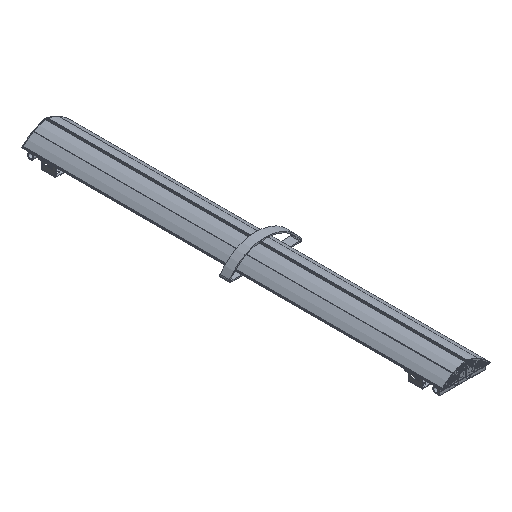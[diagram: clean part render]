
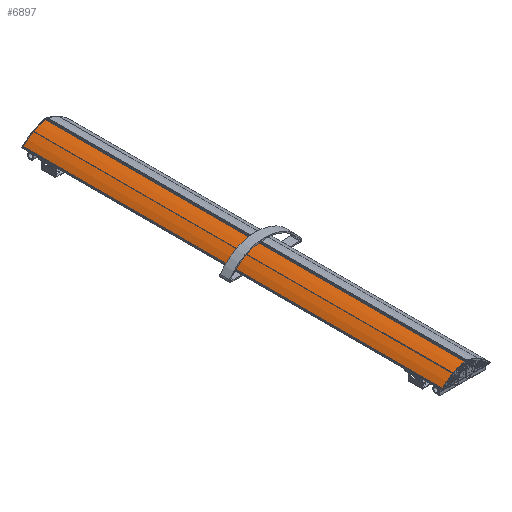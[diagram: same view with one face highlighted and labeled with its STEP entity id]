
A CAD part, isometric view. The second image highlights one B-rep face of the part: STEP entity #6897.
In plain terms, the highlighted cylindrical face has radius 200 mm (diameter 400 mm), a partial arc.
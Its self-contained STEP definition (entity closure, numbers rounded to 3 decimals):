
#10 = VERTEX_POINT ( 'NONE', #30968 ) ;
#114 = VERTEX_POINT ( 'NONE', #31072 ) ;
#145 = VERTEX_POINT ( 'NONE', #31103 ) ;
#453 = VERTEX_POINT ( 'NONE', #31411 ) ;
#1038 = ORIENTED_EDGE ( 'NONE', *, *, #19372, .T. ) ;
#1039 = ORIENTED_EDGE ( 'NONE', *, *, #19371, .F. ) ;
#1040 = ORIENTED_EDGE ( 'NONE', *, *, #19370, .F. ) ;
#1041 = ORIENTED_EDGE ( 'NONE', *, *, #19374, .T. ) ;
#2166 = AXIS2_PLACEMENT_3D ( 'NONE', #3926, #3928, #3929 ) ;
#2167 = AXIS2_PLACEMENT_3D ( 'NONE', #3936, #3938, #3940 ) ;
#3926 = CARTESIAN_POINT ( 'NONE',  ( -61.557, -1795., -150.689 ) ) ;
#3928 = DIRECTION ( 'NONE',  ( 0., -1., 0. ) ) ;
#3929 = DIRECTION ( 'NONE',  ( 0., 0., 1. ) ) ;
#3932 = CARTESIAN_POINT ( 'NONE',  ( -13.398, -1795., 43.426 ) ) ;
#3934 = DIRECTION ( 'NONE',  ( 0., 1., 0. ) ) ;
#3936 = CARTESIAN_POINT ( 'NONE',  ( -61.557, 0., -150.689 ) ) ;
#3938 = DIRECTION ( 'NONE',  ( 0., -1., 0. ) ) ;
#3940 = DIRECTION ( 'NONE',  ( 0., 0., 1. ) ) ;
#3949 = CARTESIAN_POINT ( 'NONE',  ( 82.805, -1795., -12.27 ) ) ;
#3950 = DIRECTION ( 'NONE',  ( 0., 1., 0. ) ) ;
#5839 = FACE_OUTER_BOUND ( 'NONE', #9561, .T. ) ;
#5840 = CYLINDRICAL_SURFACE ( 'NONE', #22207, 200. ) ;
#6897 = ADVANCED_FACE ( 'NONE', ( #5839 ), #5840, .T. ) ;
#8916 = LINE ( 'NONE', #3932, #8918 ) ;
#8917 = CIRCLE ( 'NONE', #2166, 200. ) ;
#8918 = VECTOR ( 'NONE', #3934, 1000. ) ;
#8919 = CIRCLE ( 'NONE', #2167, 200. ) ;
#8920 = LINE ( 'NONE', #3949, #8922 ) ;
#8922 = VECTOR ( 'NONE', #3950, 1000. ) ;
#9561 = EDGE_LOOP ( 'NONE', ( #1038, #1039, #1040, #1041 ) ) ;
#19370 = EDGE_CURVE ( 'NONE', #145, #114, #8917, .T. ) ;
#19371 = EDGE_CURVE ( 'NONE', #114, #10, #8916, .T. ) ;
#19372 = EDGE_CURVE ( 'NONE', #453, #10, #8919, .T. ) ;
#19374 = EDGE_CURVE ( 'NONE', #145, #453, #8920, .T. ) ;
#22207 = AXIS2_PLACEMENT_3D ( 'NONE', #23757, #23758, #23759 ) ;
#23757 = CARTESIAN_POINT ( 'NONE',  ( -61.557, -1795., -150.689 ) ) ;
#23758 = DIRECTION ( 'NONE',  ( 0., 1., 0. ) ) ;
#23759 = DIRECTION ( 'NONE',  ( 0., 0., 1. ) ) ;
#30968 = CARTESIAN_POINT ( 'NONE',  ( -13.398, 0., 43.426 ) ) ;
#31072 = CARTESIAN_POINT ( 'NONE',  ( -13.398, -1795., 43.426 ) ) ;
#31103 = CARTESIAN_POINT ( 'NONE',  ( 82.805, -1795., -12.27 ) ) ;
#31411 = CARTESIAN_POINT ( 'NONE',  ( 82.805, 0., -12.27 ) ) ;
